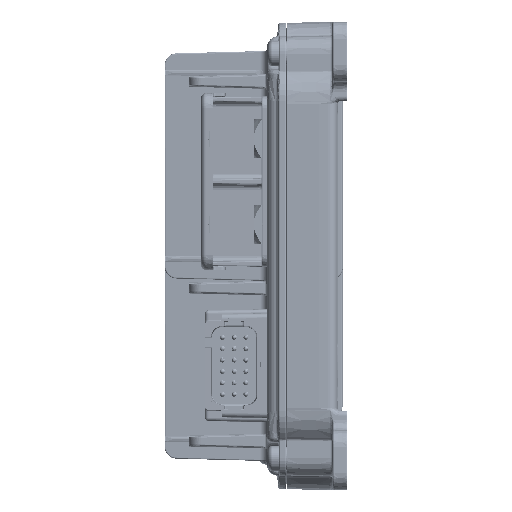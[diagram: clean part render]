
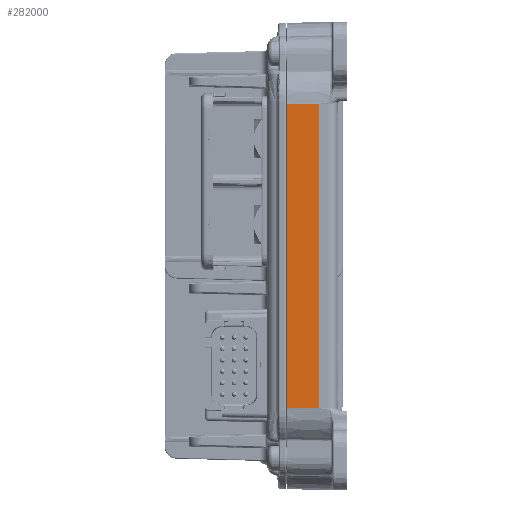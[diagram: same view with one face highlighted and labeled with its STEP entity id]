
A CAD part, left-side view. The second image highlights one B-rep face of the part: STEP entity #282000.
In plain terms, the highlighted planar face has unit normal (-1, 0.026, 0).
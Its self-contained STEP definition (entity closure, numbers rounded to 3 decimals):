
#20426 = CARTESIAN_POINT ( 'NONE',  ( -163.45, -13.462, -62.377 ) ) ;
#22313 = CARTESIAN_POINT ( 'NONE',  ( -163.45, -13.46, 62.321 ) ) ;
#31555 = FACE_OUTER_BOUND ( 'NONE', #410788, .T. ) ;
#48308 = ORIENTED_EDGE ( 'NONE', *, *, #252852, .T. ) ;
#48931 = CARTESIAN_POINT ( 'NONE',  ( -163.451, -13.49, 62.377 ) ) ;
#79680 = CARTESIAN_POINT ( 'NONE',  ( -163.45, -13.46, -62.321 ) ) ;
#80549 = VERTEX_POINT ( 'NONE', #123152 ) ;
#92512 = PLANE ( 'NONE',  #197964 ) ;
#93042 = DIRECTION ( 'NONE',  ( 0.026, 1., -0.002 ) ) ;
#109570 = EDGE_CURVE ( 'NONE', #349176, #321674, #156415, .T. ) ;
#112107 = CARTESIAN_POINT ( 'NONE',  ( -163.107, -0.372, 62.351 ) ) ;
#118982 = VERTEX_POINT ( 'NONE', #356308 ) ;
#123152 = CARTESIAN_POINT ( 'NONE',  ( -163.451, -13.49, -62.377 ) ) ;
#125038 = CARTESIAN_POINT ( 'NONE',  ( -163.45, -13.46, -63.373 ) ) ;
#130507 = DIRECTION ( 'NONE',  ( 0., 0., -1. ) ) ;
#130958 = EDGE_CURVE ( 'NONE', #274147, #169273, #244258, .T. ) ;
#139936 = CARTESIAN_POINT ( 'NONE',  ( -163.45, -13.46, -62.34 ) ) ;
#155932 = ORIENTED_EDGE ( 'NONE', *, *, #130958, .T. ) ;
#156415 = LINE ( 'NONE', #125038, #460115 ) ;
#169273 = VERTEX_POINT ( 'NONE', #112107 ) ;
#175975 = CARTESIAN_POINT ( 'NONE',  ( -163.45, -13.47, -62.358 ) ) ;
#178220 = DIRECTION ( 'NONE',  ( 0., 0., 1. ) ) ;
#195339 = VECTOR ( 'NONE', #326974, 1000. ) ;
#197964 = AXIS2_PLACEMENT_3D ( 'NONE', #241367, #272632, #178220 ) ;
#217143 = CARTESIAN_POINT ( 'NONE',  ( -163.451, -13.49, 62.377 ) ) ;
#241367 = CARTESIAN_POINT ( 'NONE',  ( -163.45, -13.46, -63.373 ) ) ;
#244258 = LINE ( 'NONE', #390586, #381873 ) ;
#252852 = EDGE_CURVE ( 'NONE', #169273, #118982, #344160, .T. ) ;
#259798 = CARTESIAN_POINT ( 'NONE',  ( -163.451, -13.49, -62.377 ) ) ;
#261179 = ORIENTED_EDGE ( 'NONE', *, *, #368734, .T. ) ;
#272632 = DIRECTION ( 'NONE',  ( -1., 0.026, 0. ) ) ;
#274147 = VERTEX_POINT ( 'NONE', #217143 ) ;
#282000 = ADVANCED_FACE ( 'NONE', ( #31555 ), #92512, .T. ) ;
#286289 = CARTESIAN_POINT ( 'NONE',  ( -163.45, -13.46, -62.321 ) ) ;
#308205 = EDGE_CURVE ( 'NONE', #118982, #80549, #398959, .T. ) ;
#309943 = ORIENTED_EDGE ( 'NONE', *, *, #109570, .F. ) ;
#321674 = VERTEX_POINT ( 'NONE', #79680 ) ;
#326974 = DIRECTION ( 'NONE',  ( -0.026, -1., -0.002 ) ) ;
#344160 = LINE ( 'NONE', #380139, #391296 ) ;
#348906 = CARTESIAN_POINT ( 'NONE',  ( -163.45, -13.46, 62.34 ) ) ;
#349176 = VERTEX_POINT ( 'NONE', #388945 ) ;
#356308 = CARTESIAN_POINT ( 'NONE',  ( -163.107, -0.372, -62.351 ) ) ;
#368734 = EDGE_CURVE ( 'NONE', #349176, #274147, #371137, .T. ) ;
#371137 =( BOUNDED_CURVE ( )  B_SPLINE_CURVE ( 3, ( #22313, #348906, #413806, #48931 ),
 .UNSPECIFIED., .F., .F. ) 
 B_SPLINE_CURVE_WITH_KNOTS ( ( 4, 4 ),
 ( 3.142, 3.198 ),
 .UNSPECIFIED. ) 
 CURVE ( )  GEOMETRIC_REPRESENTATION_ITEM ( )  RATIONAL_B_SPLINE_CURVE ( ( 1., 1., 1., 1. ) ) 
 REPRESENTATION_ITEM ( '' )  );
#380139 = CARTESIAN_POINT ( 'NONE',  ( -163.107, -0.372, -63.373 ) ) ;
#381873 = VECTOR ( 'NONE', #93042, 1000. ) ;
#388945 = CARTESIAN_POINT ( 'NONE',  ( -163.45, -13.46, 62.321 ) ) ;
#390586 = CARTESIAN_POINT ( 'NONE',  ( -163.444, -13.214, 62.377 ) ) ;
#391296 = VECTOR ( 'NONE', #130507, 1000. ) ;
#398959 = LINE ( 'NONE', #20426, #195339 ) ;
#410788 = EDGE_LOOP ( 'NONE', ( #155932, #48308, #422454, #415138, #309943, #261179 ) ) ;
#413806 = CARTESIAN_POINT ( 'NONE',  ( -163.45, -13.47, 62.358 ) ) ;
#415138 = ORIENTED_EDGE ( 'NONE', *, *, #471750, .T. ) ;
#415442 = DIRECTION ( 'NONE',  ( 0., 0., -1. ) ) ;
#422454 = ORIENTED_EDGE ( 'NONE', *, *, #308205, .T. ) ;
#460115 = VECTOR ( 'NONE', #415442, 1000. ) ;
#471750 = EDGE_CURVE ( 'NONE', #80549, #321674, #472239, .T. ) ;
#472239 =( BOUNDED_CURVE ( )  B_SPLINE_CURVE ( 3, ( #259798, #175975, #139936, #286289 ),
 .UNSPECIFIED., .F., .F. ) 
 B_SPLINE_CURVE_WITH_KNOTS ( ( 4, 4 ),
 ( 3.085, 3.141 ),
 .UNSPECIFIED. ) 
 CURVE ( )  GEOMETRIC_REPRESENTATION_ITEM ( )  RATIONAL_B_SPLINE_CURVE ( ( 1., 1., 1., 1. ) ) 
 REPRESENTATION_ITEM ( '' )  );
